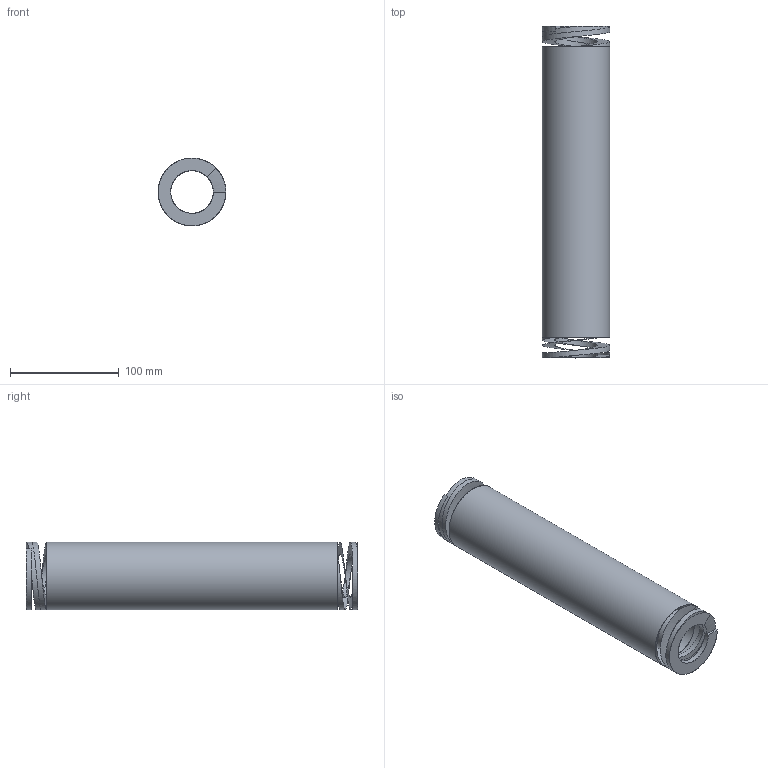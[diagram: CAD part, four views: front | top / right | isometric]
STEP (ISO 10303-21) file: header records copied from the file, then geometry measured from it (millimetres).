
FILE_DESCRIPTION(/* description */ ('Max 37,5% | 114.4 | 7400'),/* implementation_level */ '2;1');
FILE_NAME(/* name */ '2S63303.step',/* time_stamp */ '2026-10-07T11:36:05+02:00',/* author */ ('2S'),/* organization */ ('11,5x9,3 prostokatny'),/* preprocessor_version */ 'ST-DEVELOPER v20.1',/* originating_system */ 'Autodesk Inventor 2026',/* authorisation */ '64.7');
FILE_SCHEMA (('AUTOMOTIVE_DESIGN { 1 0 10303 214 3 1 1 }'));
Length unit declared in the file: millimetre
Products named in the file (1): 2S63303
Bounding box: 62.21 x 305 x 62.21 mm (x, y, z)
Volume: 532757.4 mm3; surface area: 105557.9 mm2
Topology: 1 solids, 1 shells, 22 faces, 64 edges, 40 vertices
Faces by surface type: bspline 14, plane 6, cylinder 2
Full cylindrical faces by diameter (mm): 39.199 x1, 62.201 x1
Entity records: 3256 total; most frequent: CARTESIAN_POINT 2780, ORIENTED_EDGE 120, EDGE_CURVE 60, B_SPLINE_CURVE_WITH_KNOTS 48, VERTEX_POINT 38, DIRECTION 34, EDGE_LOOP 26, FACE_OUTER_BOUND 22
